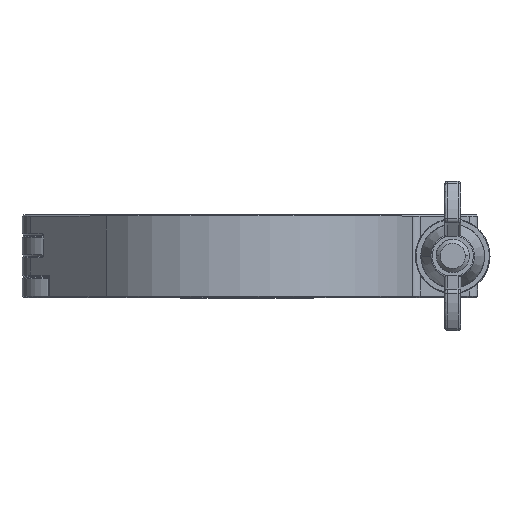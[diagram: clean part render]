
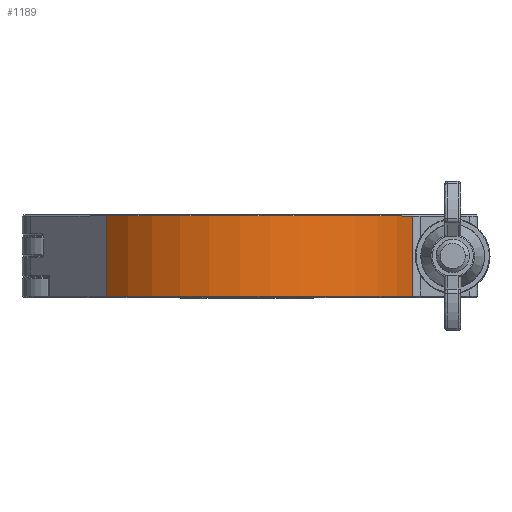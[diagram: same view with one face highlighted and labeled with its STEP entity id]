
A CAD part, top view. The second image highlights one B-rep face of the part: STEP entity #1189.
In plain terms, the highlighted cylindrical face has radius 34.925 mm (diameter 69.85 mm), a partial arc.
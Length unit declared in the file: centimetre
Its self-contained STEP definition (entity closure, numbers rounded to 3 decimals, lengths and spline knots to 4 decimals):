
#1189 = ADVANCED_FACE ( 'NONE', ( #12301 ), #12308, .T. ) ;
#1293 = VERTEX_POINT ( 'NONE', #6481 ) ;
#1304 = VERTEX_POINT ( 'NONE', #6492 ) ;
#1387 = VERTEX_POINT ( 'NONE', #6575 ) ;
#1428 = VERTEX_POINT ( 'NONE', #2755 ) ;
#1974 = ORIENTED_EDGE ( 'NONE', *, *, #11722, .F. ) ;
#1975 = ORIENTED_EDGE ( 'NONE', *, *, #11780, .F. ) ;
#1976 = ORIENTED_EDGE ( 'NONE', *, *, #11782, .F. ) ;
#2174 = ORIENTED_EDGE ( 'NONE', *, *, #11781, .F. ) ;
#2755 = CARTESIAN_POINT ( 'NONE',  ( 3.1695, 0.7684, 1.4668 ) ) ;
#6481 = CARTESIAN_POINT ( 'NONE',  ( -2.6972, -0.7683, 2.2187 ) ) ;
#6492 = CARTESIAN_POINT ( 'NONE',  ( 3.1695, -0.7683, 1.4669 ) ) ;
#6575 = CARTESIAN_POINT ( 'NONE',  ( -2.6972, 0.7684, 2.2187 ) ) ;
#7304 = AXIS2_PLACEMENT_3D ( 'NONE', #7837, #7835, #7828 ) ;
#7828 = DIRECTION ( 'NONE',  ( 0., 0., -1. ) ) ;
#7835 = DIRECTION ( 'NONE',  ( 0., -1., 0. ) ) ;
#7837 = CARTESIAN_POINT ( 'NONE',  ( 0., 0.7684, 0. ) ) ;
#10989 = EDGE_LOOP ( 'NONE', ( #2174, #1974, #1975, #1976 ) ) ;
#11722 = EDGE_CURVE ( 'NONE', #1304, #1293, #13833, .T. ) ;
#11780 = EDGE_CURVE ( 'NONE', #1428, #1304, #13896, .T. ) ;
#11781 = EDGE_CURVE ( 'NONE', #1293, #1387, #13897, .T. ) ;
#11782 = EDGE_CURVE ( 'NONE', #1387, #1428, #13899, .T. ) ;
#12301 = FACE_OUTER_BOUND ( 'NONE', #10989, .T. ) ;
#12308 = CYLINDRICAL_SURFACE ( 'NONE', #7304, 3.4925 ) ;
#13833 = CIRCLE ( 'NONE', #13998, 3.4925 ) ;
#13896 = LINE ( 'NONE', #15411, #13898 ) ;
#13897 = LINE ( 'NONE', #15424, #13900 ) ;
#13898 = VECTOR ( 'NONE', #15412, 100. ) ;
#13899 = CIRCLE ( 'NONE', #14013, 3.4925 ) ;
#13900 = VECTOR ( 'NONE', #15425, 100. ) ;
#13998 = AXIS2_PLACEMENT_3D ( 'NONE', #15070, #15071, #15072 ) ;
#14013 = AXIS2_PLACEMENT_3D ( 'NONE', #15429, #15430, #15431 ) ;
#15070 = CARTESIAN_POINT ( 'NONE',  ( 0., -0.7683, 0. ) ) ;
#15071 = DIRECTION ( 'NONE',  ( 0., -1., 0. ) ) ;
#15072 = DIRECTION ( 'NONE',  ( 0.99, 0., -0.142 ) ) ;
#15411 = CARTESIAN_POINT ( 'NONE',  ( 3.1695, 0.4763, 1.4669 ) ) ;
#15412 = DIRECTION ( 'NONE',  ( 0., -1., 0. ) ) ;
#15424 = CARTESIAN_POINT ( 'NONE',  ( -2.6972, 0., 2.2187 ) ) ;
#15425 = DIRECTION ( 'NONE',  ( 0., 1., 0. ) ) ;
#15429 = CARTESIAN_POINT ( 'NONE',  ( 0., 0.7684, 0. ) ) ;
#15430 = DIRECTION ( 'NONE',  ( 0., 1., 0. ) ) ;
#15431 = DIRECTION ( 'NONE',  ( 0.127, 0., 0.992 ) ) ;
